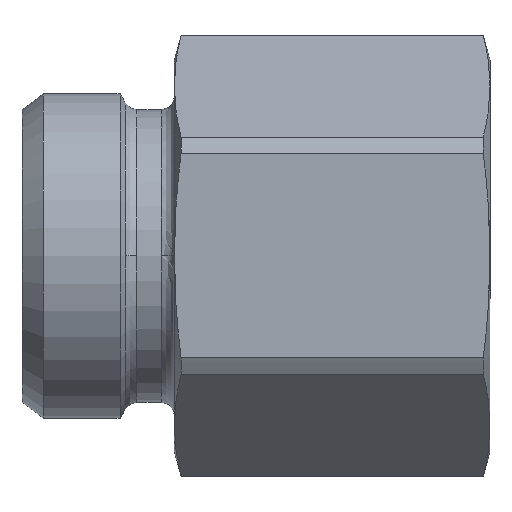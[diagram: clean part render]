
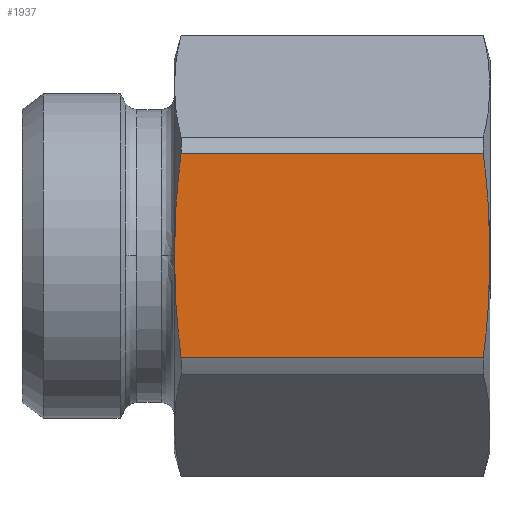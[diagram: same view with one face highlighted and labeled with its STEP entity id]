
A CAD part, top view. The second image highlights one B-rep face of the part: STEP entity #1937.
In plain terms, the highlighted planar face has unit normal (0, 0, 1) as drawn and (1, 0, 0) by its records, which use the part's own axes.
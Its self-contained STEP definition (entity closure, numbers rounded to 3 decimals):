
#1250=CARTESIAN_POINT('',(18.0,0.0,14.5));
#1251=VERTEX_POINT('',#1250);
#1315=CARTESIAN_POINT('',(18.0,-9.386,13.884));
#1316=VERTEX_POINT('',#1315);
#1334=CARTESIAN_POINT('',(18.0,-9.386,-13.884));
#1335=VERTEX_POINT('',#1334);
#1343=CARTESIAN_POINT('',(18.0,-9.386,-13.884));
#1344=DIRECTION('',(0.0,0.0,1.0));
#1345=VECTOR('',#1344,27.767);
#1346=LINE('',#1343,#1345);
#1347=EDGE_CURVE('',#1335,#1316,#1346,.T.);
#1359=CARTESIAN_POINT('',(18.0,9.386,13.884));
#1360=VERTEX_POINT('',#1359);
#1368=CARTESIAN_POINT('',(18.0,9.386,-13.884));
#1369=VERTEX_POINT('',#1368);
#1370=CARTESIAN_POINT('',(18.0,9.386,13.884));
#1371=DIRECTION('',(0.0,0.0,-1.0));
#1372=VECTOR('',#1371,27.767);
#1373=LINE('',#1370,#1372);
#1374=EDGE_CURVE('',#1360,#1369,#1373,.T.);
#1870=CARTESIAN_POINT('',(18.0,9.386,13.884));
#1871=CARTESIAN_POINT('',(18.0,4.411,14.5));
#1872=CARTESIAN_POINT('',(18.0,0.0,14.5));
#1880=(BOUNDED_CURVE()B_SPLINE_CURVE(2,(#1870,#1871,#1872),.UNSPECIFIED.,.F.,.U.)B_SPLINE_CURVE_WITH_KNOTS((3,3),(7.492,17.761),.UNSPECIFIED.)CURVE()GEOMETRIC_REPRESENTATION_ITEM()RATIONAL_B_SPLINE_CURVE((1.047,1.055,1.0))REPRESENTATION_ITEM(''));
#1881=EDGE_CURVE('',#1360,#1251,#1880,.T.);
#1886=CARTESIAN_POINT('',(18.,-10.392,0.0));
#1887=DIRECTION('',(1.0,0.0,0.0));
#1888=DIRECTION('',(0.0,0.0,-1.0));
#1889=AXIS2_PLACEMENT_3D('',#1886,#1887,#1888);
#1890=PLANE('',#1889);
#1891=ORIENTED_EDGE('',*,*,#1374,.F.);
#1892=ORIENTED_EDGE('',*,*,#1881,.T.);
#1893=CARTESIAN_POINT('',(18.0,0.0,14.5));
#1894=CARTESIAN_POINT('',(18.,-4.411,14.5));
#1895=CARTESIAN_POINT('',(18.0,-9.386,13.884));
#1903=(BOUNDED_CURVE()B_SPLINE_CURVE(2,(#1893,#1894,#1895),.UNSPECIFIED.,.F.,.U.)B_SPLINE_CURVE_WITH_KNOTS((3,3),(17.761,28.031),.UNSPECIFIED.)CURVE()GEOMETRIC_REPRESENTATION_ITEM()RATIONAL_B_SPLINE_CURVE((1.0,1.055,1.047))REPRESENTATION_ITEM(''));
#1904=EDGE_CURVE('',#1251,#1316,#1903,.T.);
#1905=ORIENTED_EDGE('',*,*,#1904,.T.);
#1906=ORIENTED_EDGE('',*,*,#1347,.F.);
#1907=CARTESIAN_POINT('',(18.,0.0,-14.5));
#1908=VERTEX_POINT('',#1907);
#1909=CARTESIAN_POINT('',(18.0,-9.386,-13.884));
#1910=CARTESIAN_POINT('',(18.0,-4.411,-14.5));
#1911=CARTESIAN_POINT('',(18.,0.0,-14.5));
#1919=(BOUNDED_CURVE()B_SPLINE_CURVE(2,(#1909,#1910,#1911),.UNSPECIFIED.,.F.,.U.)B_SPLINE_CURVE_WITH_KNOTS((3,3),(7.492,17.761),.UNSPECIFIED.)CURVE()GEOMETRIC_REPRESENTATION_ITEM()RATIONAL_B_SPLINE_CURVE((1.047,1.055,1.0))REPRESENTATION_ITEM(''));
#1920=EDGE_CURVE('',#1335,#1908,#1919,.T.);
#1921=ORIENTED_EDGE('',*,*,#1920,.T.);
#1922=CARTESIAN_POINT('',(18.,0.0,-14.5));
#1923=CARTESIAN_POINT('',(18.,4.411,-14.5));
#1924=CARTESIAN_POINT('',(18.0,9.386,-13.884));
#1932=(BOUNDED_CURVE()B_SPLINE_CURVE(2,(#1922,#1923,#1924),.UNSPECIFIED.,.F.,.U.)B_SPLINE_CURVE_WITH_KNOTS((3,3),(17.761,28.031),.UNSPECIFIED.)CURVE()GEOMETRIC_REPRESENTATION_ITEM()RATIONAL_B_SPLINE_CURVE((1.0,1.055,1.047))REPRESENTATION_ITEM(''));
#1933=EDGE_CURVE('',#1908,#1369,#1932,.T.);
#1934=ORIENTED_EDGE('',*,*,#1933,.T.);
#1935=EDGE_LOOP('',(#1891,#1892,#1905,#1906,#1921,#1934));
#1936=FACE_OUTER_BOUND('',#1935,.T.);
#1937=ADVANCED_FACE('',(#1936),#1890,.T.);
